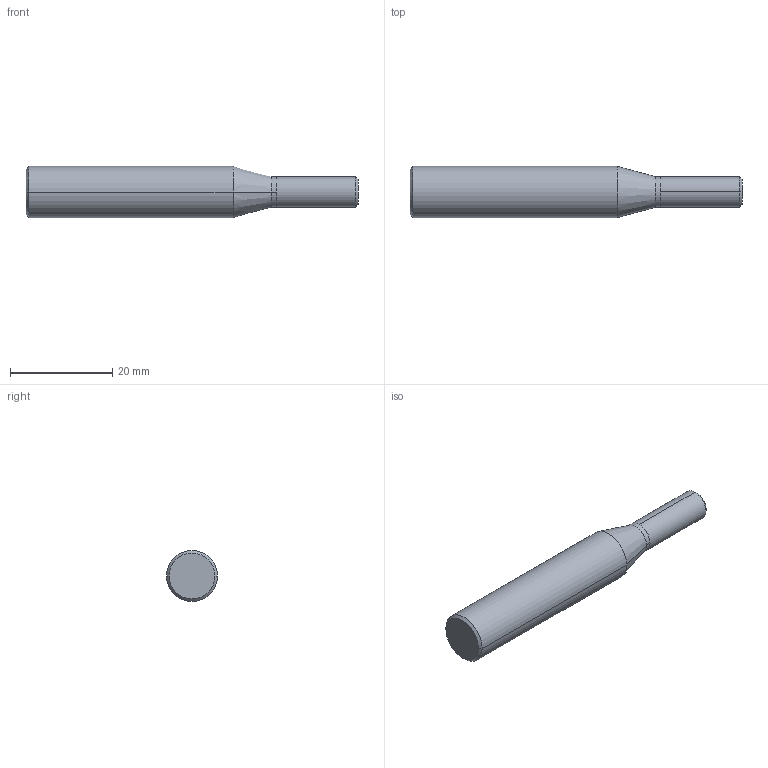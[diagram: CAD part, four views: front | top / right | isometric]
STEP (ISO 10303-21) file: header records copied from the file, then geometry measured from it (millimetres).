
FILE_DESCRIPTION (( 'STEP AP203' ), '1' );
FILE_NAME ('03-1777.STEP', '2021-09-10T07:26:45', ( 'USER' ), ( 'Hewlett-Packard Company' ), 'SwSTEP 2.0', 'SolidWorks 2014', '' );
FILE_SCHEMA (( 'CONFIG_CONTROL_DESIGN' ));
Length unit declared in the file: millimetre
Products named in the file (1): 03-1777
Bounding box: 65 x 10 x 10 mm (x, y, z)
Volume: 4041.3 mm3; surface area: 1936.1 mm2
Topology: 2 solids, 2 shells, 16 faces, 28 edges, 16 vertices
Faces by surface type: cylinder 6, cone 6, plane 4
Entity records: 459 total; most frequent: DIRECTION 78, CARTESIAN_POINT 61, ORIENTED_EDGE 56, AXIS2_PLACEMENT_3D 33, EDGE_CURVE 28, FACE_OUTER_BOUND 16, CIRCLE 16, ADVANCED_FACE 16
